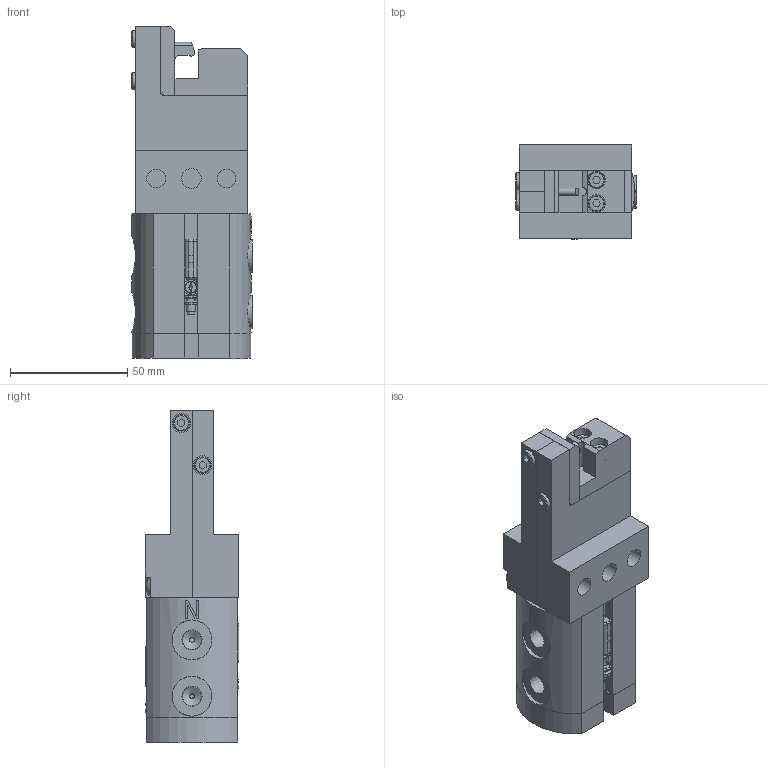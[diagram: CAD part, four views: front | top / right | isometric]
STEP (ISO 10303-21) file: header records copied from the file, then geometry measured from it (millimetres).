
FILE_DESCRIPTION(/* description */ ('WIRE CLAMP'),/* implementation_level */ '2;1');
FILE_NAME(/* name */ 'C:\Vault Workspace\CAD\Welker\Wire Clamps\Standard\Step Files\TCA100NL3X0.stp',/* time_stamp */ '2021-12-13T09:42:47-05:00',/* author */ ('JPX'),/* organization */ (''),/* preprocessor_version */ 'ST-DEVELOPER v18.1',/* originating_system */ 'Autodesk Inventor 2020',/* authorisation */ '');
FILE_SCHEMA (('AUTOMOTIVE_DESIGN { 1 0 10303 214 3 1 1 }'));
Products named in the file (17): TCAL01; TCAE09; TCAE08; BIM-UNT-Sensor; G1/8; NL5; M5X0.8-65 SHCS; TCAE01; TCAE02; TCAE03-1000; TCAE04; TCAE05; M4X0.7-12 SHCS; M4X0.7-20 SHCS; M4X0.7-25 BHCS; 4mmX12 ; 6mmX12 
Assembly tree (28 placements, depth 2):
  TCAL01
    TCAE09
    TCAE08
    BIM-UNT-Sensor  x2
    G1/8  x2
    NL5  x4
    M5X0.8-65 SHCS  x4
    TCAE01
    TCAE02
    TCAE03-1000
    TCAE04
    TCAE05
    M4X0.7-12 SHCS  x2
    M4X0.7-20 SHCS  x2
    M4X0.7-25 BHCS  x2
    4mmX12   x2
    6mmX12 
Bounding box: 51.5 x 40 x 141.5 mm (x, y, z)
Volume: 162360.9 mm3; surface area: 71505.7 mm2
Topology: 30 solids, 30 shells, 696 faces, 1768 edges, 1195 vertices
Faces by surface type: plane 415, cylinder 173, cone 55, bspline 42, torus 11
Full cylindrical faces by diameter (mm): 1.9 x2, 2 x4, 2.6 x2, 3.2 x2, 3.242 x6, 4 x14, 4.134 x4, 4.5 x6, 5 x6, 5.4 x4, 5.5 x8, 6 x4, 7 x4, 7.5 x2, 7.6 x2, 7.914 x2, 8 x6, 8.376 x2, 8.5 x4, 9 x4, 10 x7, 12 x1, 13.6 x1, 14 x2, 17 x4, 21.4 x1, 25 x2, 25.05 x1
Entity records: 25349 total; most frequent: CARTESIAN_POINT 12181, DIRECTION 2623, ORIENTED_EDGE 2542, EDGE_CURVE 1271, AXIS2_PLACEMENT_3D 937, VERTEX_POINT 878, LINE 749, VECTOR 749
